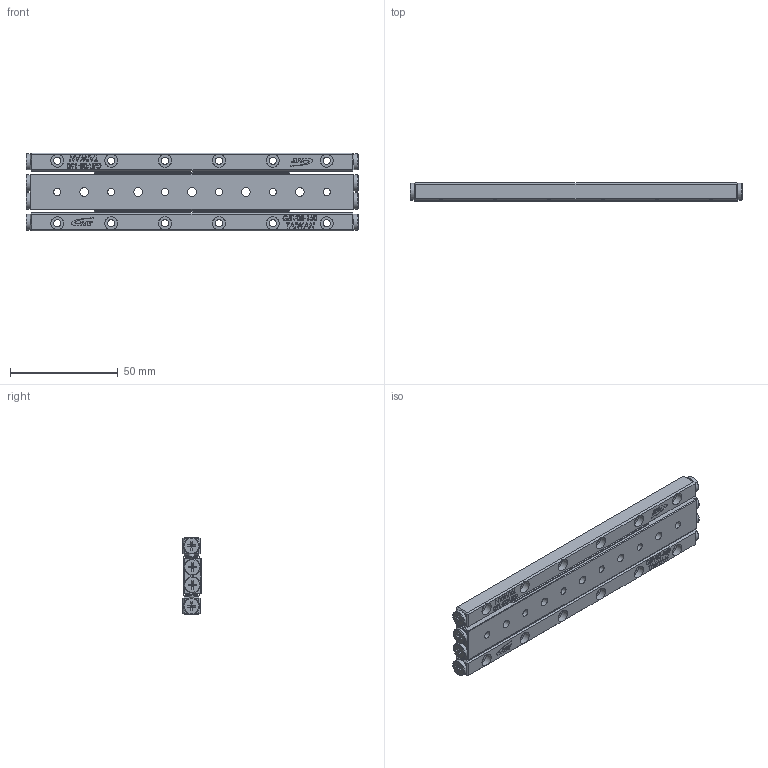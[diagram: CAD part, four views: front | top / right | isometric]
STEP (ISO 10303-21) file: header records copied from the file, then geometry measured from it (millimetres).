
FILE_DESCRIPTION (( 'STEP AP203' ), '1' );
FILE_NAME ('GBD03-150.STEP', '2023-11-20T02:39:59', ( '' ), ( '' ), 'SwSTEP 2.0', 'SolidWorks 2019', '' );
FILE_SCHEMA (( 'CONFIG_CONTROL_DESIGN' ));
Length unit declared in the file: millimetre
Products named in the file (4): GBD03-150-模糊化中軌; GBV03-150-模糊化保持器組; GBV03-150-模糊化軌道; GBD03-150
Assembly tree (5 placements, depth 2):
  GBD03-150
    GBD03-150-模糊化中軌
    GBV03-150-模糊化軌道  x2
    GBV03-150-模糊化保持器組  x2
Bounding box: 154 x 8.5 x 36 mm (x, y, z)
Volume: 36678.2 mm3; surface area: 24127.7 mm2
Topology: 5 solids, 5 shells, 1225 faces, 3198 edges, 2068 vertices
Faces by surface type: plane 799, bspline 213, cone 72, sphere 72, cylinder 53, torus 16
Full cylindrical faces by diameter (mm): 3.3 x18, 4 x5, 6 x18, 7.5 x8
Entity records: 31985 total; most frequent: CARTESIAN_POINT 13286, ORIENTED_EDGE 3910, DIRECTION 3225, EDGE_CURVE 1955, LINE 1299, VECTOR 1299, VERTEX_POINT 1280, EDGE_LOOP 1011
